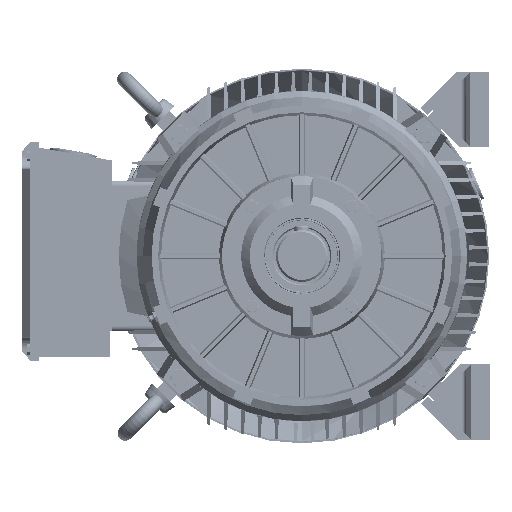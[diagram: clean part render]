
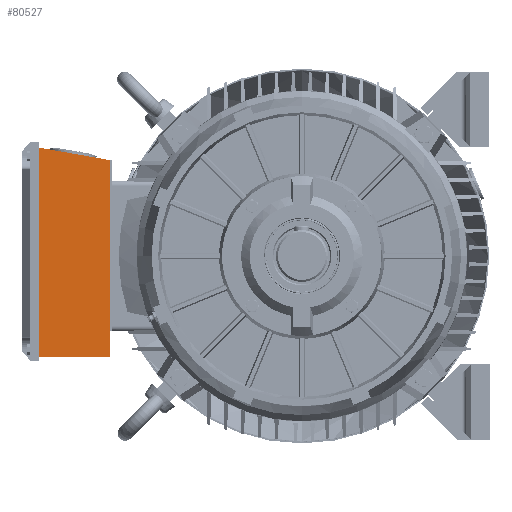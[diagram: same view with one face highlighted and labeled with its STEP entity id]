
A CAD part, left-side view. The second image highlights one B-rep face of the part: STEP entity #80527.
In plain terms, the highlighted planar face has unit normal (-1, 0, 0).
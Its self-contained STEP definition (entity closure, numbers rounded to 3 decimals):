
#1808 = DIRECTION ( 'NONE',  ( 0., 0., -1. ) ) ;
#7078 = EDGE_CURVE ( 'NONE', #218860, #278417, #145843, .T. ) ;
#20229 = DIRECTION ( 'NONE',  ( 1., 0., 0. ) ) ;
#21750 = DIRECTION ( 'NONE',  ( 0., 0., 1. ) ) ;
#28262 = EDGE_CURVE ( 'NONE', #120495, #91086, #283196, .T. ) ;
#41454 = EDGE_CURVE ( 'NONE', #91086, #218860, #150631, .T. ) ;
#42591 = CARTESIAN_POINT ( 'NONE',  ( -77.943, 191.384, 103.066 ) ) ;
#43141 = VECTOR ( 'NONE', #1808, 1000. ) ;
#54263 = ORIENTED_EDGE ( 'NONE', *, *, #124879, .T. ) ;
#72451 = CARTESIAN_POINT ( 'NONE',  ( -77.943, 191.384, -105.934 ) ) ;
#76894 = CARTESIAN_POINT ( 'NONE',  ( -77.943, 267.384, -105.934 ) ) ;
#80527 = ADVANCED_FACE ( 'NONE', ( #305170 ), #95287, .F. ) ;
#84738 = CARTESIAN_POINT ( 'NONE',  ( -77.943, 191.384, 103.066 ) ) ;
#91086 = VERTEX_POINT ( 'NONE', #42591 ) ;
#95287 = PLANE ( 'NONE',  #283150 ) ;
#97466 = DIRECTION ( 'NONE',  ( 0., -1., 0. ) ) ;
#99232 = CARTESIAN_POINT ( 'NONE',  ( -77.943, 191.384, -105.934 ) ) ;
#120495 = VERTEX_POINT ( 'NONE', #99232 ) ;
#124879 = EDGE_CURVE ( 'NONE', #278417, #120495, #146048, .T. ) ;
#130240 = DIRECTION ( 'NONE',  ( 0., 0.985, 0.174 ) ) ;
#145843 = LINE ( 'NONE', #76894, #43141 ) ;
#146048 = LINE ( 'NONE', #72451, #196463 ) ;
#150631 = LINE ( 'NONE', #84738, #253285 ) ;
#165772 = CARTESIAN_POINT ( 'NONE',  ( -77.943, 267.384, -105.934 ) ) ;
#167907 = EDGE_LOOP ( 'NONE', ( #54263, #192719, #242130, #223261 ) ) ;
#168841 = CARTESIAN_POINT ( 'NONE',  ( -77.943, 191.384, -105.934 ) ) ;
#171489 = CARTESIAN_POINT ( 'NONE',  ( -77.943, 267.384, -105.934 ) ) ;
#192719 = ORIENTED_EDGE ( 'NONE', *, *, #28262, .T. ) ;
#196463 = VECTOR ( 'NONE', #97466, 1000. ) ;
#218860 = VERTEX_POINT ( 'NONE', #285547 ) ;
#223261 = ORIENTED_EDGE ( 'NONE', *, *, #7078, .T. ) ;
#225006 = VECTOR ( 'NONE', #21750, 1000. ) ;
#242130 = ORIENTED_EDGE ( 'NONE', *, *, #41454, .T. ) ;
#253285 = VECTOR ( 'NONE', #130240, 1000. ) ;
#278417 = VERTEX_POINT ( 'NONE', #171489 ) ;
#281670 = DIRECTION ( 'NONE',  ( 0., -1., 0. ) ) ;
#283150 = AXIS2_PLACEMENT_3D ( 'NONE', #165772, #20229, #281670 ) ;
#283196 = LINE ( 'NONE', #168841, #225006 ) ;
#285547 = CARTESIAN_POINT ( 'NONE',  ( -77.943, 267.384, 116.467 ) ) ;
#305170 = FACE_OUTER_BOUND ( 'NONE', #167907, .T. ) ;
